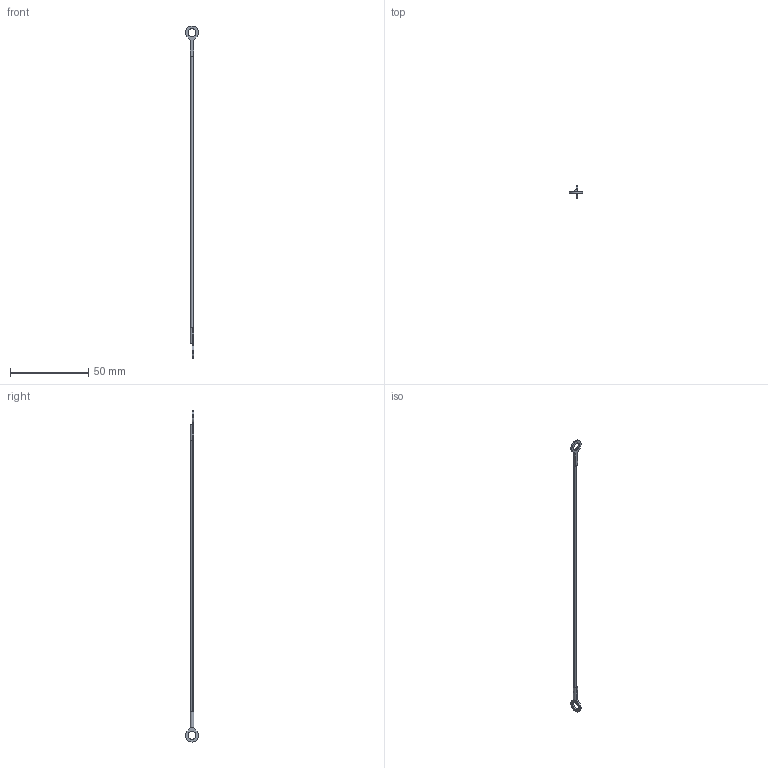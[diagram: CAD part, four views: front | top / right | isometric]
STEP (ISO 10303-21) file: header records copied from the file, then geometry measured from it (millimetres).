
FILE_DESCRIPTION (( 'STEP AP203' ), '1' );
FILE_NAME ('LA1070.I04-203B1.step', '2026-03-23T14:46:33', ( '' ), ( '' ), 'SwSTEP 2.0', 'SolidWorks 2019', '' );
FILE_SCHEMA (( 'CONFIG_CONTROL_DESIGN' ));
Length unit declared in the file: millimetre
Products named in the file (1): LA1070.I04-203B1
Bounding box: 8.38 x 8.38 x 211.58 mm (x, y, z)
Volume: 523.8 mm3; surface area: 1284.8 mm2
Topology: 1 solids, 1 shells, 27 faces, 65 edges, 42 vertices
Faces by surface type: plane 16, cylinder 11
Entity records: 874 total; most frequent: DIRECTION 143, CARTESIAN_POINT 135, ORIENTED_EDGE 130, EDGE_CURVE 65, AXIS2_PLACEMENT_3D 50, LINE 43, VECTOR 43, VERTEX_POINT 42
